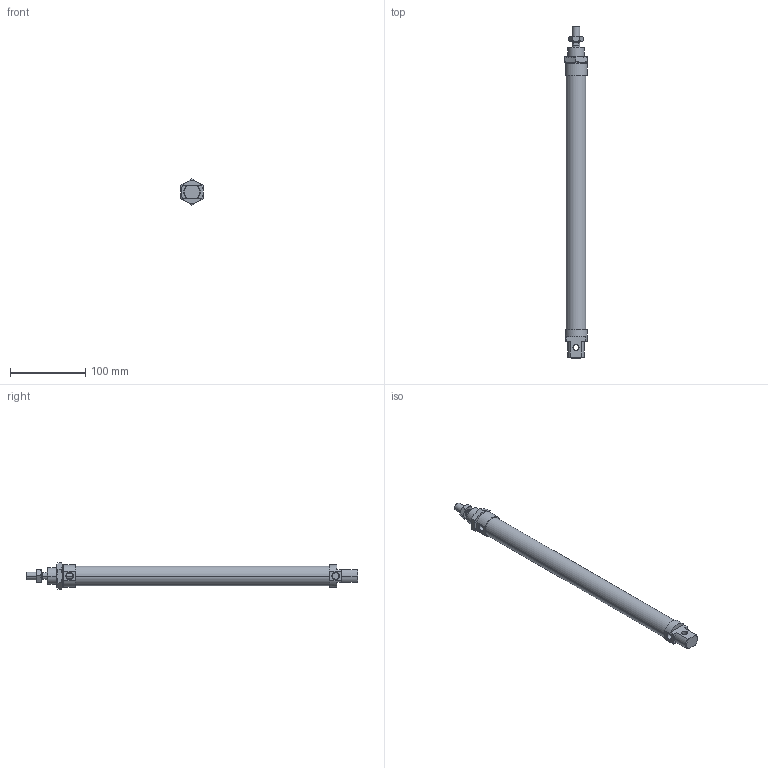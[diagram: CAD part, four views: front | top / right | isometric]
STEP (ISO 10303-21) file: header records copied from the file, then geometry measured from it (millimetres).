
FILE_DESCRIPTION((''),'2;1');
FILE_NAME('I:\DOC-EDP\Lib-3d\1200\CILINDRI\1280\1280_25_0300.stp','2003-04-07T18:00:55',('maffial1'),(''),'Autodesk Inventor (R) 6.0','Autodesk Inventor (R) 6.0','');
FILE_SCHEMA(('AUTOMOTIVE_DESIGN { 1 0 10303 214 1 1 1 1 }'));
Length unit declared in the file: millimetre
Products named in the file (5): 1280_25_0300; S1280_25_300; 1200_25_05; 1200_25_06; C1280_25_300
Assembly tree (4 placements, depth 2):
  1280_25_0300
    S1280_25_300
    1200_25_05
    1200_25_06
    C1280_25_300
Bounding box: 30 x 440 x 34.64 mm (x, y, z)
Volume: 225550.9 mm3; surface area: 61251.2 mm2
Topology: 4 solids, 4 shells, 124 faces, 281 edges, 170 vertices
Faces by surface type: plane 41, cone 40, cylinder 22, bspline 21
Entity records: 3808 total; most frequent: CARTESIAN_POINT 1031, DIRECTION 573, ORIENTED_EDGE 562, EDGE_CURVE 281, AXIS2_PLACEMENT_3D 236, VERTEX_POINT 170, EDGE_LOOP 137, FACE_OUTER_BOUND 124
